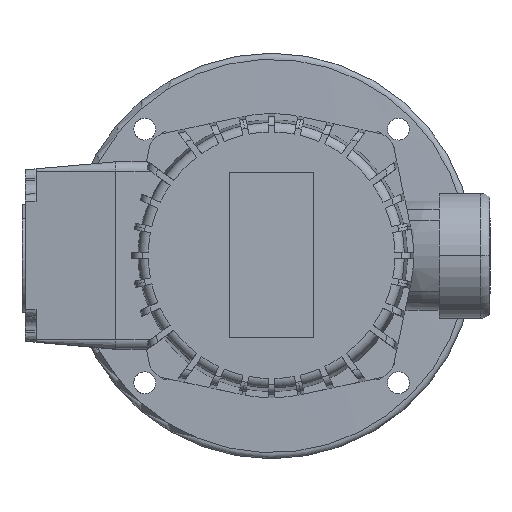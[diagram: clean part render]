
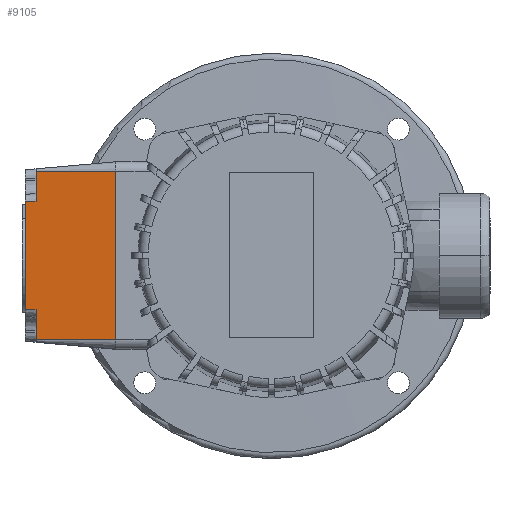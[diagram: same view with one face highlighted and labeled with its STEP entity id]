
A CAD part, top view. The second image highlights one B-rep face of the part: STEP entity #9105.
In plain terms, the highlighted planar face has unit normal (-0.087, 0, 0.996).
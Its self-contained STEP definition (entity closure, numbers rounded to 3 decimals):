
#3399=EDGE_CURVE('',#6991,#4265,#10115,.T.);
#3555=VERTEX_POINT('',#10291);
#3621=EDGE_CURVE('',#6311,#4265,#10369,.T.);
#3635=VERTEX_POINT('',#10383);
#3749=VERTEX_POINT('',#10507);
#4047=VERTEX_POINT('',#10829);
#4265=VERTEX_POINT('',#11065);
#4351=EDGE_CURVE('',#8445,#4047,#11163,.T.);
#4737=EDGE_CURVE('',#3635,#3555,#11590,.T.);
#6311=VERTEX_POINT('',#13329);
#6991=VERTEX_POINT('',#14069);
#7277=EDGE_CURVE('',#6991,#3635,#14386,.T.);
#7581=EDGE_CURVE('',#3555,#3749,#14722,.T.);
#8077=EDGE_CURVE('',#4047,#6311,#15264,.T.);
#8445=VERTEX_POINT('',#15657);
#9105=ADVANCED_FACE('',(#16379),#16380,.T.);
#9143=EDGE_CURVE('',#3749,#8445,#16421,.T.);
#10115=LINE('',#17488,#17489);
#10291=CARTESIAN_POINT('',(-75.5,27.0,60.269));
#10369=LINE('',#17972,#17973);
#10383=CARTESIAN_POINT('',(-50.0,27.0,62.5));
#10507=CARTESIAN_POINT('',(-75.5,17.353,60.269));
#10829=CARTESIAN_POINT('',(-79.0,-17.326,59.963));
#11065=CARTESIAN_POINT('',(-75.5,-27.0,60.269));
#11163=LINE('',#19846,#19847);
#11590=LINE('',#20945,#20946);
#13329=CARTESIAN_POINT('',(-75.5,-17.353,60.269));
#14069=CARTESIAN_POINT('',(-50.0,-27.0,62.5));
#14386=LINE('',#27358,#27359);
#14722=LINE('',#28122,#28123);
#15264=B_SPLINE_CURVE_WITH_KNOTS('',2,(#29333,#29334,#29335),.UNSPECIFIED.,.F.,.F.,(3,3),(0.0,3.513),.UNSPECIFIED.);
#15657=CARTESIAN_POINT('',(-79.0,17.326,59.963));
#16379=FACE_OUTER_BOUND('',#31855,.T.);
#16380=PLANE('',#31856);
#16421=B_SPLINE_CURVE_WITH_KNOTS('',2,(#31911,#31912,#31913),.UNSPECIFIED.,.F.,.F.,(3,3),(0.0,3.513),.UNSPECIFIED.);
#17488=CARTESIAN_POINT('',(-50.0,-27.0,62.5));
#17489=VECTOR('',#34055,1.0);
#17972=CARTESIAN_POINT('',(-75.5,1.189,60.269));
#17973=VECTOR('',#34414,1.0);
#19846=CARTESIAN_POINT('',(-79.0,-27.0,59.963));
#19847=VECTOR('',#35240,1.0);
#20945=CARTESIAN_POINT('',(-50.0,27.0,62.5));
#20946=VECTOR('',#35769,1.0);
#27358=CARTESIAN_POINT('',(-50.0,-27.0,62.5));
#27359=VECTOR('',#38837,1.0);
#28122=CARTESIAN_POINT('',(-75.5,25.811,60.269));
#28123=VECTOR('',#39255,1.0);
#29333=CARTESIAN_POINT('',(-79.0,-17.326,59.963));
#29334=CARTESIAN_POINT('',(-77.297,-17.339,60.112));
#29335=CARTESIAN_POINT('',(-75.5,-17.353,60.269));
#31855=EDGE_LOOP('',(#41063,#41064,#41065,#41066,#41067,#41068,#41069,#41070));
#31856=AXIS2_PLACEMENT_3D('',#41071,#41072,#41073);
#31911=CARTESIAN_POINT('',(-75.5,17.353,60.269));
#31912=CARTESIAN_POINT('',(-77.297,17.339,60.112));
#31913=CARTESIAN_POINT('',(-79.0,17.326,59.963));
#34055=DIRECTION('',(-0.996,0.,-0.087));
#34414=DIRECTION('',(0.0,-1.0,0.0));
#35240=DIRECTION('',(0.0,-1.0,0.0));
#35769=DIRECTION('',(-0.996,0.0,-0.087));
#38837=DIRECTION('',(0.0,1.0,0.0));
#39255=DIRECTION('',(0.0,-1.0,0.0));
#41063=ORIENTED_EDGE('',*,*,#3621,.T.);
#41064=ORIENTED_EDGE('',*,*,#3399,.F.);
#41065=ORIENTED_EDGE('',*,*,#7277,.T.);
#41066=ORIENTED_EDGE('',*,*,#4737,.T.);
#41067=ORIENTED_EDGE('',*,*,#7581,.T.);
#41068=ORIENTED_EDGE('',*,*,#9143,.T.);
#41069=ORIENTED_EDGE('',*,*,#4351,.T.);
#41070=ORIENTED_EDGE('',*,*,#8077,.T.);
#41071=CARTESIAN_POINT('',(-50.0,27.0,62.5));
#41072=DIRECTION('',(-0.087,0.0,0.996));
#41073=DIRECTION('',(0.0,1.0,0.0));
